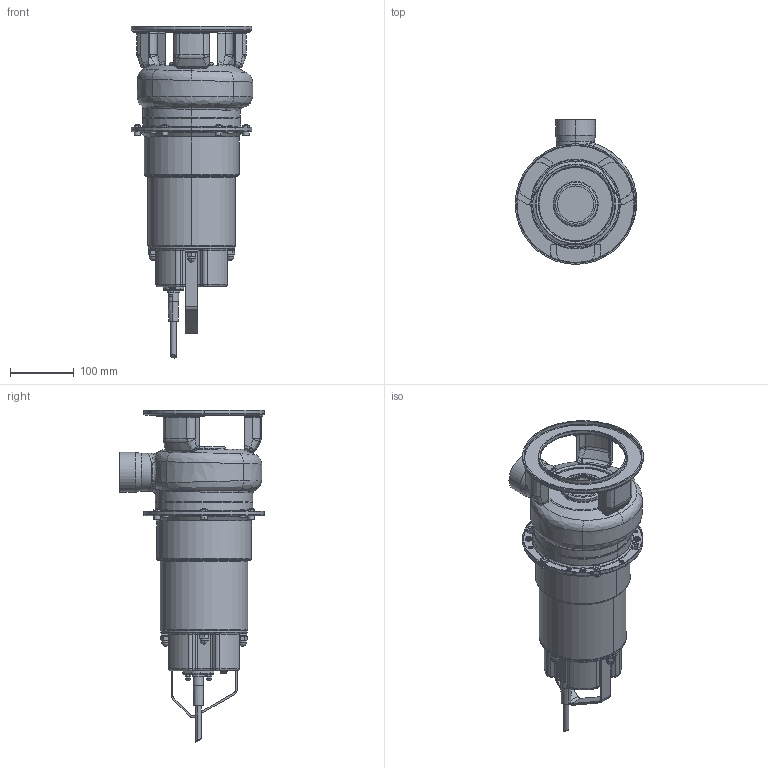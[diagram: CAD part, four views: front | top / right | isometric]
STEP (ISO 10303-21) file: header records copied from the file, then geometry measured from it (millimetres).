
FILE_DESCRIPTION((''),'2;1');
FILE_NAME('DW_75_ASM','2009-09-28T',('Utente'),('"Ebara Pumps Europe +39.444.706811"'),'PRO/ENGINEER BY PARAMETRIC TECHNOLOGY CORPORATION, 2008400','PRO/ENGINEER BY PARAMETRIC TECHNOLOGY CORPORATION, 2008400','');
FILE_SCHEMA(('AUTOMOTIVE_DESIGN { 1 0 10303 214 1 1 1 1 }'));
Length unit declared in the file: millimetre
Products named in the file (15): 20698; DADO_A_SALDARE_M6; DADO_M5; 62023; 15032; 72074; CORPO_POMPA_DW_ASM; CASSA_MOTORE_BASSA; COPERCHIO_MOTORE_25081; 60022; 66002_SEMPLICE; 65003_SEMPLICE; DADO_CALOTTA_M5; VITE_TCC_M5X8_UNI7687; DW_75_ASM
Assembly tree (25 placements, depth 3):
  DW_75_ASM
    CORPO_POMPA_DW_ASM
      20698
      DADO_A_SALDARE_M6  x6
      DADO_M5  x4
      62023
      15032
      72074  x3
    CASSA_MOTORE_BASSA
    COPERCHIO_MOTORE_25081
    60022
    66002_SEMPLICE
    65003_SEMPLICE
    DADO_CALOTTA_M5  x2
    VITE_TCC_M5X8_UNI7687
Bounding box: 191.3 x 228 x 522.52 mm (x, y, z)
Volume: 3969276.1 mm3; surface area: 541603.6 mm2
Topology: 24 solids, 27 shells, 1098 faces, 2466 edges, 1480 vertices
Faces by surface type: plane 325, cylinder 319, bspline 176, torus 138, cone 112, sphere 24, extrusion 4
Entity records: 33343 total; most frequent: CARTESIAN_POINT 13603, DIRECTION 4095, ORIENTED_EDGE 3720, EDGE_CURVE 1862, AXIS2_PLACEMENT_3D 1744, VERTEX_POINT 1123, CIRCLE 960, EDGE_LOOP 925
